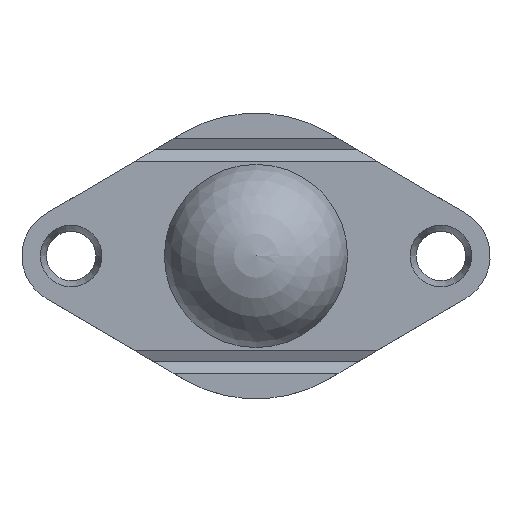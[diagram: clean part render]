
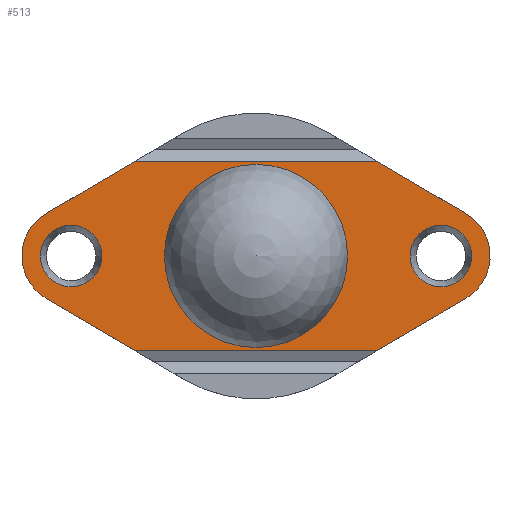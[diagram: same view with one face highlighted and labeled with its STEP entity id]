
A CAD part, top view. The second image highlights one B-rep face of the part: STEP entity #513.
In plain terms, the highlighted planar face has unit normal (0, 0, 1).
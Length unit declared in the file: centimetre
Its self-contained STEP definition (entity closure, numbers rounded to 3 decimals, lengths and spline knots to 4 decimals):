
#186=VERTEX_POINT('',#2338);
#191=VERTEX_POINT('',#2350);
#192=VERTEX_POINT('',#2352);
#197=VERTEX_POINT('',#2365);
#198=VERTEX_POINT('',#2367);
#199=VERTEX_POINT('',#2371);
#203=VERTEX_POINT('',#2380);
#208=VERTEX_POINT('',#2392);
#209=VERTEX_POINT('',#2394);
#210=VERTEX_POINT('',#2397);
#211=VERTEX_POINT('',#2399);
#239=EDGE_CURVE('',#186,#186,#990,.T.);
#245=EDGE_CURVE('',#192,#191,#693,.T.);
#252=EDGE_CURVE('',#198,#197,#700,.T.);
#254=EDGE_CURVE('',#192,#199,#702,.T.);
#259=EDGE_CURVE('',#198,#203,#706,.T.);
#266=EDGE_CURVE('',#208,#191,#711,.T.);
#267=EDGE_CURVE('',#203,#208,#992,.T.);
#268=EDGE_CURVE('',#209,#197,#710,.T.);
#269=EDGE_CURVE('',#199,#209,#993,.T.);
#270=EDGE_CURVE('',#210,#210,#994,.T.);
#271=EDGE_CURVE('',#211,#211,#995,.T.);
#360=ORIENTED_EDGE('',*,*,#239,.T.);
#361=ORIENTED_EDGE('',*,*,#245,.T.);
#362=ORIENTED_EDGE('',*,*,#266,.F.);
#363=ORIENTED_EDGE('',*,*,#267,.F.);
#364=ORIENTED_EDGE('',*,*,#259,.F.);
#365=ORIENTED_EDGE('',*,*,#252,.T.);
#366=ORIENTED_EDGE('',*,*,#268,.F.);
#367=ORIENTED_EDGE('',*,*,#269,.F.);
#368=ORIENTED_EDGE('',*,*,#254,.F.);
#369=ORIENTED_EDGE('',*,*,#270,.F.);
#370=ORIENTED_EDGE('',*,*,#271,.F.);
#439=EDGE_LOOP('',(#360));
#440=EDGE_LOOP('',(#361,#362,#363,#364,#365,#366,#367,#368));
#441=EDGE_LOOP('',(#369));
#442=EDGE_LOOP('',(#370));
#477=FACE_BOUND('',#439,.T.);
#478=FACE_BOUND('',#440,.T.);
#479=FACE_BOUND('',#441,.T.);
#480=FACE_BOUND('',#442,.T.);
#513=ADVANCED_FACE('',(#477,#478,#479,#480),#1701,.T.);
#693=LINE('',#2351,#1655);
#700=LINE('',#2366,#1662);
#702=LINE('',#2370,#1664);
#706=LINE('',#2379,#1668);
#710=LINE('',#2390,#1672);
#711=LINE('',#2391,#1673);
#990=CIRCLE('',#1549,0.7433);
#992=CIRCLE('',#1558,0.4);
#993=CIRCLE('',#1559,0.4);
#994=CIRCLE('',#1560,0.25);
#995=CIRCLE('',#1561,0.25);
#1549=AXIS2_PLACEMENT_3D('',#2337,#1898,#1899);
#1556=AXIS2_PLACEMENT_3D('',#2387,#1928,$);
#1558=AXIS2_PLACEMENT_3D('',#2393,#1933,#1934);
#1559=AXIS2_PLACEMENT_3D('',#2395,#1935,#1936);
#1560=AXIS2_PLACEMENT_3D('',#2396,#1937,#1938);
#1561=AXIS2_PLACEMENT_3D('',#2398,#1939,#1940);
#1655=VECTOR('',#1907,1.);
#1662=VECTOR('',#1916,1.);
#1664=VECTOR('',#1919,1.);
#1668=VECTOR('',#1924,1.);
#1672=VECTOR('',#1931,1.);
#1673=VECTOR('',#1932,1.);
#1701=PLANE('',#1556);
#1898=DIRECTION('',(0.,0.,-1.));
#1899=DIRECTION('',(0.,0.743,0.));
#1907=DIRECTION('',(1.,0.,0.));
#1916=DIRECTION('',(-1.,0.,0.));
#1919=DIRECTION('',(-0.862,0.507,0.));
#1924=DIRECTION('',(0.862,-0.507,0.));
#1928=DIRECTION('',(0.,0.,1.));
#1931=DIRECTION('',(0.862,0.507,0.));
#1932=DIRECTION('',(-0.862,-0.507,0.));
#1933=DIRECTION('',(0.,0.,-1.));
#1934=DIRECTION('',(0.4,0.,0.));
#1935=DIRECTION('',(0.,0.,-1.));
#1936=DIRECTION('',(0.4,0.,0.));
#1937=DIRECTION('',(0.,0.,1.));
#1938=DIRECTION('',(-0.25,0.,0.));
#1939=DIRECTION('',(0.,0.,1.));
#1940=DIRECTION('',(-0.25,0.,0.));
#2337=CARTESIAN_POINT('',(0.,0.,0.16));
#2338=CARTESIAN_POINT('',(0.,-0.7433,0.16));
#2350=CARTESIAN_POINT('',(0.9867,-0.7655,0.16));
#2351=CARTESIAN_POINT('',(-2.2276,-0.7655,0.16));
#2352=CARTESIAN_POINT('',(-0.9867,-0.7655,0.16));
#2365=CARTESIAN_POINT('',(-0.9866,0.7655,0.16));
#2366=CARTESIAN_POINT('',(-2.2276,0.7655,0.16));
#2367=CARTESIAN_POINT('',(0.9866,0.7655,0.16));
#2370=CARTESIAN_POINT('',(-0.5879,-1.,0.16));
#2371=CARTESIAN_POINT('',(-1.693,-0.3504,0.16));
#2379=CARTESIAN_POINT('',(0.588,0.9999,0.16));
#2380=CARTESIAN_POINT('',(1.6889,0.3526,0.16));
#2387=CARTESIAN_POINT('',(0.,0.,0.16));
#2390=CARTESIAN_POINT('',(-1.6889,0.3526,0.16));
#2391=CARTESIAN_POINT('',(1.693,-0.3504,0.16));
#2392=CARTESIAN_POINT('',(1.693,-0.3504,0.16));
#2393=CARTESIAN_POINT('',(1.5,0.,0.16));
#2394=CARTESIAN_POINT('',(-1.6889,0.3526,0.16));
#2395=CARTESIAN_POINT('',(-1.5,0.,0.16));
#2396=CARTESIAN_POINT('',(-1.5,0.,0.16));
#2397=CARTESIAN_POINT('',(-1.25,0.,0.16));
#2398=CARTESIAN_POINT('',(1.5,0.,0.16));
#2399=CARTESIAN_POINT('',(1.75,0.,0.16));
